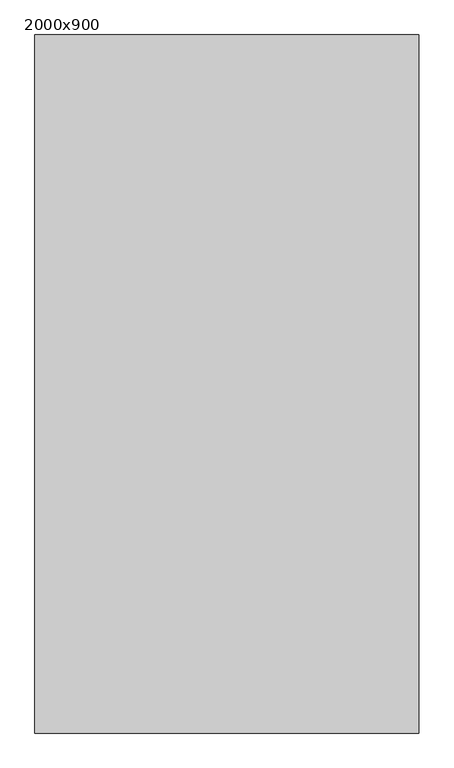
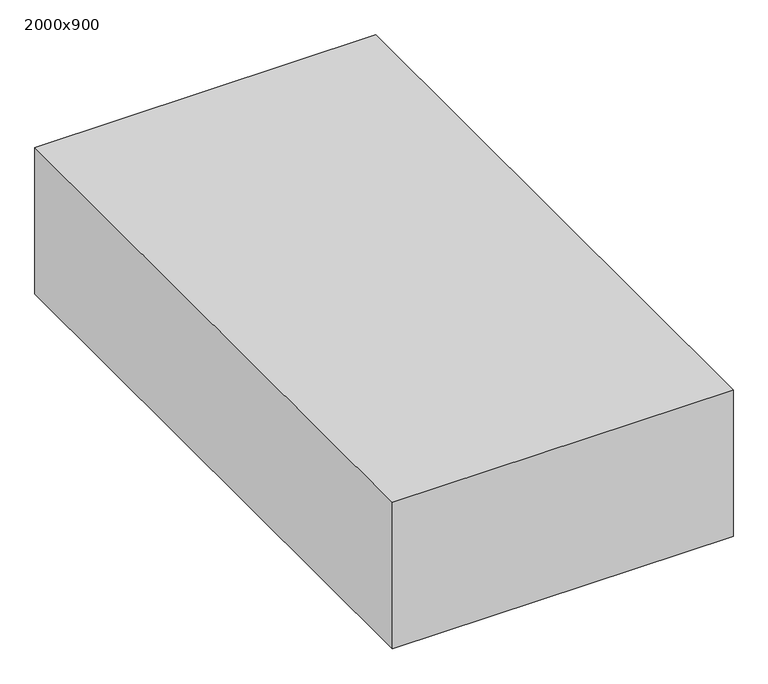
"""IFC4 building model written with IfcOpenShell, lengths in millimetres: furniture geometry, Fu_кровать x1_LEG : 2000x900."""

from ifc_helpers import new_model, si_unit, origin, origin_with_axes, place, context, project, spatial, polyline, outline, extrude, source, transform, mapped, element, save


def furniture_2000x900_8549b6ce(model_context):
    return source(origin(), model_context, "Body", "SweptSolid", [
        extrude(outline(polyline([(100.0, -765.5704918), (-1000.0, -765.5704918), (-1000.0, 1234.4295082), (100.0, 1234.4295082), (100.0, -765.5704918)])), origin_with_axes(), (0.0, 0.0, 1.0), 500.0),
    ])


if __name__ == "__main__":
    model = new_model("IFC4")
    model_context = context("Model", 3, world=origin())
    ifc_project = project(units=[si_unit("LENGTHUNIT", "METRE", prefix="MILLI")], contexts=[model_context])
    site = spatial("IfcSite", under=ifc_project)
    building = spatial("IfcBuilding", under=site)
    placement = place(None, origin())
    furniture_2000x900_shape = furniture_2000x900_8549b6ce(model_context)
    element("IfcFurniture", 1, ObjectType="Fu_кровать x1_LEG : 2000x900", at=placement, inside=building, context=model_context, shape_type="MappedRepresentation", body=[
        mapped(furniture_2000x900_shape, transform((0.0, 0.0, 0.0), x_axis=(1.0, 0.0, 0.0), y_axis=(0.0, 1.0, 0.0), z_axis=(0.0, 0.0, 1.0))),
    ])
    save(model, "model.ifc")
